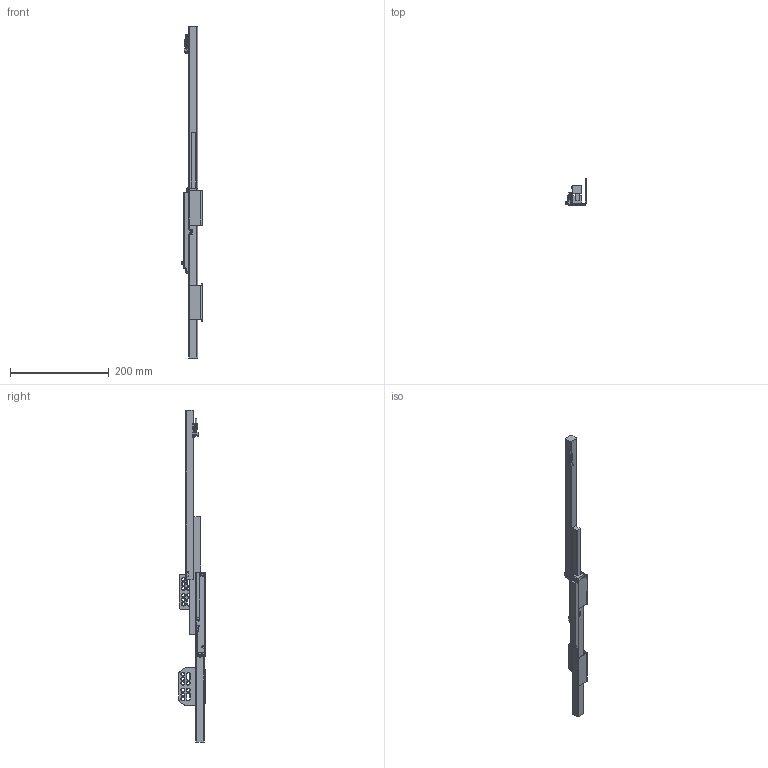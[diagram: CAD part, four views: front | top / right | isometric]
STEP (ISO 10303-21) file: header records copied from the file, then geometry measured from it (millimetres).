
FILE_DESCRIPTION (( 'STEP AP203' ), '1' );
FILE_NAME ('HB014004GX-R(打开).STEP', '2025-05-13T06:10:38', ( '微软用户' ), ( '微软中国' ), 'SwSTEP 2.0', 'SolidWorks 2021', '' );
FILE_SCHEMA (( 'CONFIG_CONTROL_DESIGN' ));
Length unit declared in the file: millimetre
Products named in the file (4): HB014004GX-R(湖羲); M覃誹儂凳R; HB414004H-1-R(湖羲); 瑰貌寢OFH01-GG-GB.STEP
Assembly tree (3 placements, depth 2):
  HB014004GX-R(湖羲)
    HB414004H-1-R(湖羲)
    瑰貌寢OFH01-GG-GB.STEP
    M覃誹儂凳R
Bounding box: 40.83 x 53 x 672 mm (x, y, z)
Volume: 276736.1 mm3; surface area: 80280.5 mm2
Topology: 3 solids, 3 shells, 1194 faces, 3212 edges, 2013 vertices
Faces by surface type: cylinder 489, plane 368, torus 158, bspline 127, cone 44, sphere 8
Entity records: 68425 total; most frequent: CARTESIAN_POINT 39245, ORIENTED_EDGE 6368, DIRECTION 5833, EDGE_CURVE 3184, AXIS2_PLACEMENT_3D 2200, VERTEX_POINT 2011, LINE 1433, VECTOR 1433
